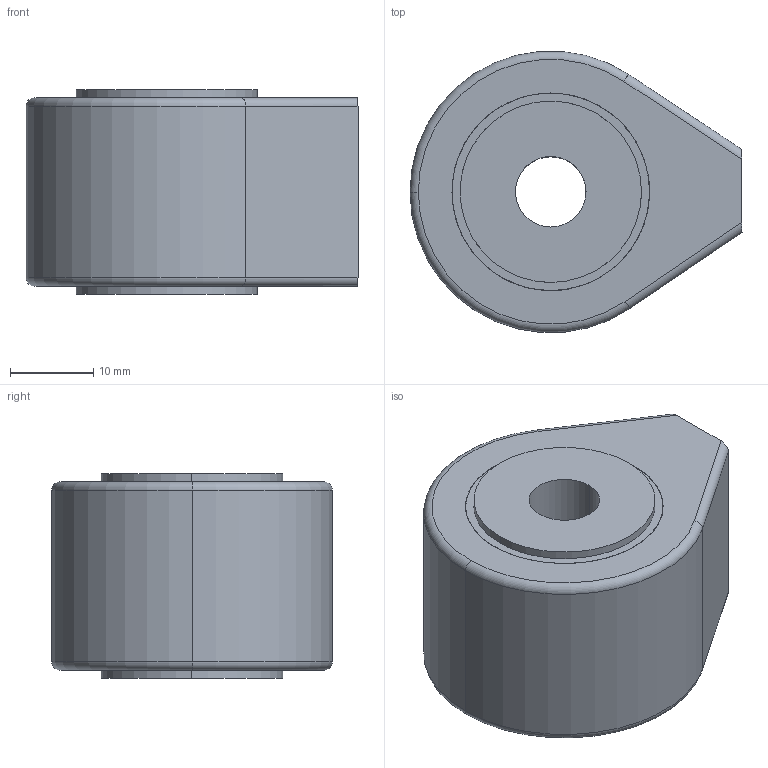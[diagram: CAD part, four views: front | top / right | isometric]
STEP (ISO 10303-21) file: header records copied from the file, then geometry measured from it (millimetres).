
FILE_DESCRIPTION (( 'STEP AP203' ), '1' );
FILE_NAME ('8DW-TRHT06-XXXX Triggy HT06.STEP', '2022-02-25T15:30:50', ( '' ), ( '' ), 'SwSTEP 2.0', 'SolidWorks 2021', '' );
FILE_SCHEMA (( 'CONFIG_CONTROL_DESIGN' ));
Length unit declared in the file: millimetre
Products named in the file (4): 8DW-TRHT06-XXXX Triggy HT06; DW-TRENXX-0000-Enrobage simplifie TRIGGYS_HT08; DW-TRBAXX-XXXX- BAGUE SIMPLIFIEE_HT08; DW-TRENXX-XXXX- ENTRETOISE SIMPLIFIEE_HT08
Assembly tree (3 placements, depth 2):
  8DW-TRHT06-XXXX Triggy HT06
    DW-TRENXX-XXXX- ENTRETOISE SIMPLIFIEE_HT08
    DW-TRBAXX-XXXX- BAGUE SIMPLIFIEE_HT08
    DW-TRENXX-0000-Enrobage simplifie TRIGGYS_HT08
Bounding box: 39.97 x 33.8 x 24.6 mm (x, y, z)
Volume: 22255.5 mm3; surface area: 11731.5 mm2
Topology: 3 solids, 3 shells, 205 faces, 546 edges, 362 vertices
Faces by surface type: bspline 97, plane 88, cylinder 16, torus 4
Entity records: 7477 total; most frequent: CARTESIAN_POINT 2609, ORIENTED_EDGE 1092, DIRECTION 603, EDGE_CURVE 546, VERTEX_POINT 362, VECTOR 307, LINE 307, EDGE_LOOP 226
